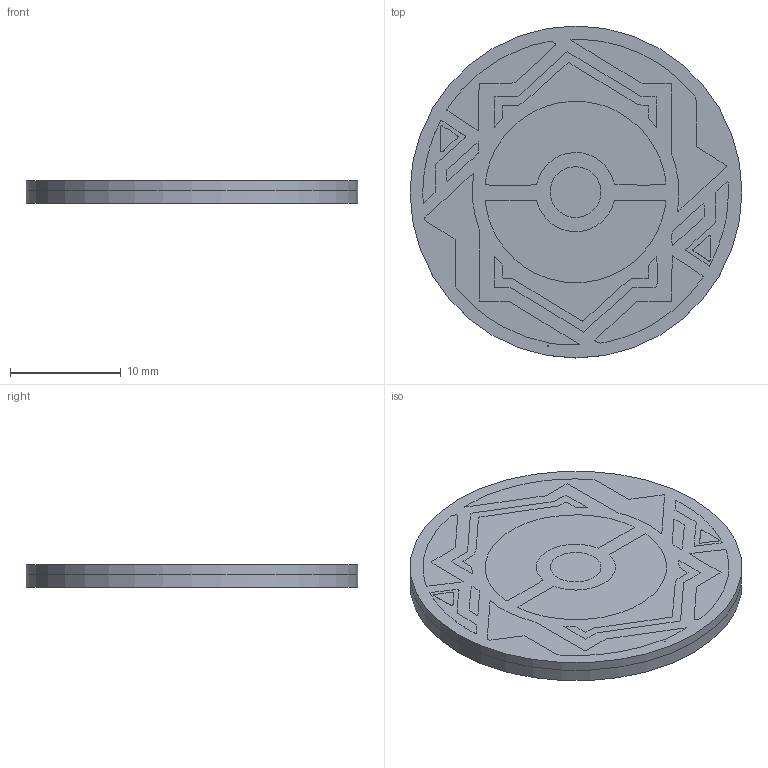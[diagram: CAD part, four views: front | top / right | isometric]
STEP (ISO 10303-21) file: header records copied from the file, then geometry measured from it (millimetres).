
FILE_DESCRIPTION(/* description */ (''),/* implementation_level */ '2;1');
FILE_NAME(/* name */ '5ColorSpecialSet02STEP.step',/* time_stamp */ '2025-11-18T11:19:59+09:00',/* author */ (''),/* organization */ (''),/* preprocessor_version */ 'ST-DEVELOPER v20.1',/* originating_system */ 'Autodesk Translation Framework v14.21.0.0',/* authorisation */ '');
FILE_SCHEMA (('AUTOMOTIVE_DESIGN { 1 0 10303 214 3 1 1 }'));
Length unit declared in the file: millimetre
Products named in the file (5): SpecialSet02; GoldBorder; LightRed; DarkRed; DarkGold
Assembly tree (4 placements, depth 2):
  SpecialSet02
    GoldBorder
    LightRed
    DarkRed
    DarkGold
Bounding box: 30 x 30 x 2 mm (x, y, z)
Volume: 1315.4 mm3; surface area: 3962 mm2
Topology: 17 solids, 17 shells, 1193 faces, 3393 edges, 2262 vertices
Faces by surface type: bspline 959, plane 232, cylinder 2
Full cylindrical faces by diameter (mm): 30 x2
Entity records: 41030 total; most frequent: CARTESIAN_POINT 19324, ORIENTED_EDGE 6786, EDGE_CURVE 3393, VERTEX_POINT 2262, DIRECTION 1965, LINE 1471, VECTOR 1471, EDGE_LOOP 1253
